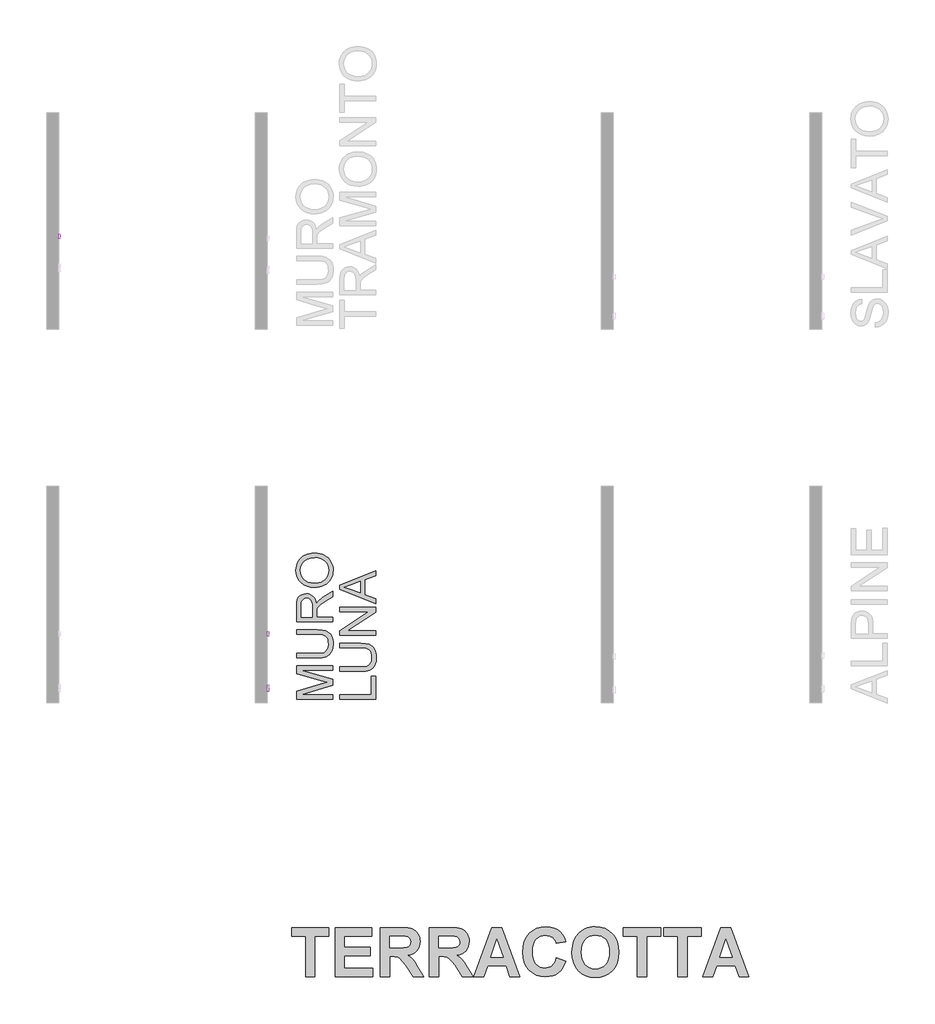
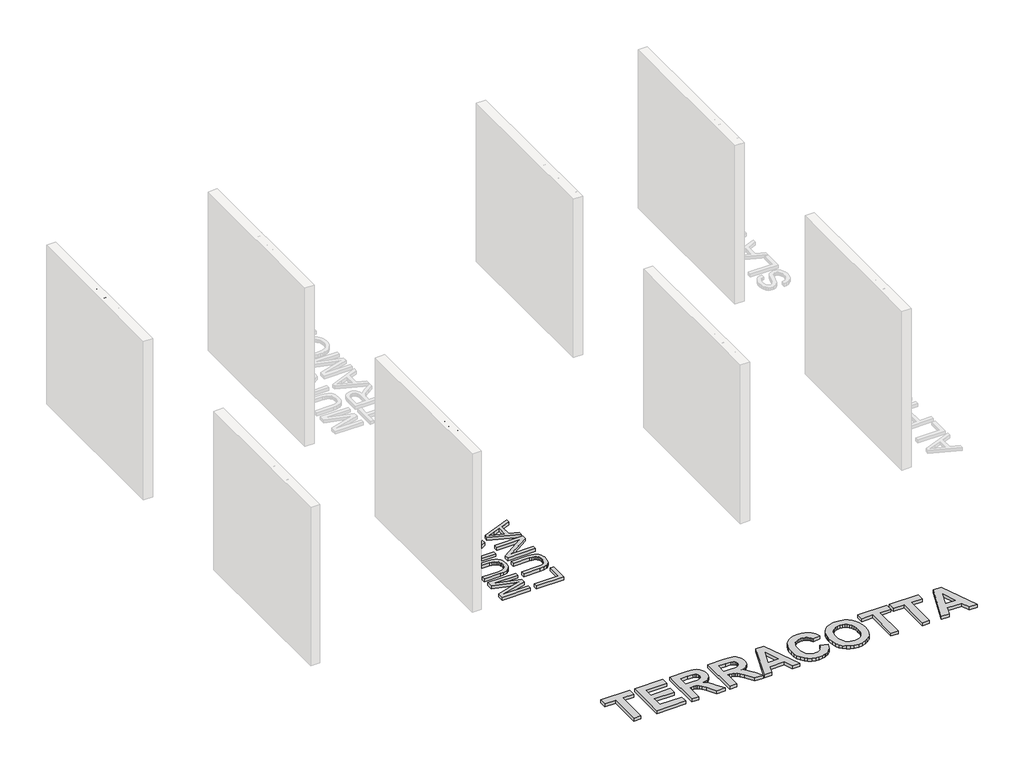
# One storey, part 3 of 11: 5 proxies.
"""IFC4 building model written with IfcOpenShell, lengths in millimetres."""

from ifc_helpers import new_model, si_unit, frame, origin, origin_with_axes, place, context, project, spatial, polyline, outline, extrude, element, save

model = new_model("IFC4")

# Units and contexts
model_context = context("Model", 3, world=origin())
ifc_project = project(units=[si_unit("LENGTHUNIT", "METRE", prefix="MILLI")], contexts=[model_context])

# Site, building, storey
site = spatial("IfcSite", under=ifc_project)
building = spatial("IfcBuilding", under=site)
storey = spatial("IfcBuildingStorey", under=building, Name="PORTOBELLO - SHOWROOM", Elevation=0.0)

# Proxies
placement = place(None, origin())
element("IfcBuildingElementProxy", 1, Name="10mm Arial", ObjectType="10mm Arial", at=placement, inside=storey, context=model_context, shape_type="SweptSolid", body=[
    extrude(outline(polyline([(-9338.2207048, 2553.7787854), (-9338.2207048, 2654.2350956), (-9316.613769, 2654.2350956), (-9296.0614282, 2583.4300742), (-9291.9166244, 2568.641218), (-9287.428464, 2584.6563475), (-9267.2194798, 2654.2350956), (-9245.6125439, 2654.2350956), (-9245.6125439, 2553.7787854), (-9258.1695827, 2553.7787854), (-9258.1695827, 2641.6780568), (-9283.4062875, 2553.7787854), (-9300.4269612, 2553.7787854), (-9325.6636661, 2641.6780568), (-9325.6636661, 2553.7787854), (-9338.2207048, 2553.7787854)])), frame((-30379.0012486, 0.0, 0.0), z_axis=(1.0, 0.0, 0.0), x_axis=(0.0, 1.0, 0.0)), (0.0, 0.0, 1.0), 20.0),
    extrude(outline(polyline([(-9178.1184605, 2553.7787854), (-9178.1184605, 2566.4584515), (-9187.9531725, 2555.7714796), (-9200.7799914, 2552.2091556), (-9212.5890035, 2554.7107531), (-9220.7314583, 2560.9892725), (-9224.4715919, 2570.2353733), (-9225.2073559, 2581.9094953), (-9225.2073559, 2627.5513882), (-9212.6503171, 2627.5513882), (-9212.6503171, 2587.8201327), (-9211.8900277, 2575.0178393), (-9206.9236207, 2567.5007838), (-9197.5671553, 2564.7661943), (-9187.0825185, 2567.5620975), (-9180.1540742, 2575.1772548), (-9178.1184605, 2589.1690334), (-9178.1184605, 2627.5513882), (-9165.5614218, 2627.5513882), (-9165.5614218, 2553.7787854), (-9178.1184605, 2553.7787854)])), frame((-30379.0012486, 0.0, 0.0), z_axis=(1.0, 0.0, 0.0), x_axis=(0.0, 1.0, 0.0)), (0.0, 0.0, 1.0), 20.0),
    extrude(outline(polyline([(-9148.2954934, 2553.7787854), (-9148.2954934, 2627.5513882), (-9137.3080845, 2627.5513882), (-9137.3080845, 2616.6375557), (-9129.5089862, 2626.6929969), (-9121.660837, 2629.121018), (-9109.0547473, 2625.2459943), (-9113.248602, 2613.9888053), (-9122.0777699, 2616.5639793), (-9129.1778924, 2614.0869072), (-9133.702841, 2607.2197766), (-9135.7384547, 2592.5535477), (-9135.7384547, 2553.7787854), (-9148.2954934, 2553.7787854)])), frame((-30379.0012486, 0.0, 0.0), z_axis=(1.0, 0.0, 0.0), x_axis=(0.0, 1.0, 0.0)), (0.0, 0.0, 1.0), 20.0),
    extrude(outline(polyline([(-9104.3458578, 2590.6650868), (-9101.6296624, 2608.4521813), (-9093.4810762, 2620.9540377), (-9083.4133722, 2627.079273), (-9071.3591055, 2629.121018), (-9058.1674703, 2626.6347489), (-9047.6307168, 2619.1759414), (-9040.7237324, 2607.3332069), (-9038.4214042, 2591.6951564), (-9042.4926316, 2569.3524565), (-9054.3506946, 2556.7095786), (-9071.3591055, 2552.2091556), (-9084.7101563, 2554.6862277), (-9095.234647, 2562.117444), (-9102.0680551, 2574.2084989), (-9104.3458578, 2590.6650868)]), holes=[polyline([(-9091.788819, 2590.6896123), (-9090.3356851, 2579.3251243), (-9085.9762835, 2571.2286547), (-9079.4157212, 2566.3818094), (-9071.3591055, 2564.7661943), (-9063.339278, 2566.3910065), (-9056.7909785, 2571.2654429), (-9052.4315769, 2579.4692114), (-9050.978443, 2591.0820197), (-9052.4407739, 2602.1154139), (-9056.8277667, 2610.1015189), (-9063.3852633, 2614.9483642), (-9071.3591055, 2616.5639793), (-9079.4157212, 2614.9544955), (-9085.9762835, 2610.1260443), (-9090.3356851, 2602.0479689), (-9091.788819, 2590.6896123)])]), frame((-30379.0012486, 0.0, 0.0), z_axis=(1.0, 0.0, 0.0), x_axis=(0.0, 1.0, 0.0)), (0.0, 0.0, 1.0), 20.0),
    extrude(outline(polyline([(-8983.4843596, 2553.7787854), (-8983.4843596, 2654.2350956), (-8970.9273208, 2654.2350956), (-8970.9273208, 2566.3358242), (-8920.6991658, 2566.3358242), (-8920.6991658, 2553.7787854), (-8983.4843596, 2553.7787854)])), frame((-30379.0012486, 0.0, 0.0), z_axis=(1.0, 0.0, 0.0), x_axis=(0.0, 1.0, 0.0)), (0.0, 0.0, 1.0), 20.0),
    extrude(outline(polyline([(-8861.0532316, 2553.7787854), (-8861.0532316, 2566.4584515), (-8870.8879436, 2555.7714796), (-8883.7147625, 2552.2091556), (-8895.5237746, 2554.7107531), (-8903.6662294, 2560.9892725), (-8907.406363, 2570.2353733), (-8908.142127, 2581.9094953), (-8908.142127, 2627.5513882), (-8895.5850882, 2627.5513882), (-8895.5850882, 2587.8201327), (-8894.8247988, 2575.0178393), (-8889.8583918, 2567.5007838), (-8880.5019264, 2564.7661943), (-8870.0172896, 2567.5620975), (-8863.0888453, 2575.1772548), (-8861.0532316, 2589.1690334), (-8861.0532316, 2627.5513882), (-8848.4961928, 2627.5513882), (-8848.4961928, 2553.7787854), (-8861.0532316, 2553.7787854)])), frame((-30379.0012486, 0.0, 0.0), z_axis=(1.0, 0.0, 0.0), x_axis=(0.0, 1.0, 0.0)), (0.0, 0.0, 1.0), 20.0),
    extrude(outline(polyline([(-8831.2302645, 2553.7787854), (-8831.2302645, 2627.5513882), (-8818.6732258, 2627.5513882), (-8818.6732258, 2617.2506923), (-8809.0715057, 2626.1534366), (-8795.9626439, 2629.121018), (-8784.104581, 2626.7297851), (-8776.0111771, 2620.4512657), (-8772.246518, 2611.2174276), (-8771.5843304, 2599.0773218), (-8771.5843304, 2553.7787854), (-8784.1413692, 2553.7787854), (-8784.1413692, 2597.3850646), (-8785.5883717, 2608.4951008), (-8790.7019314, 2614.36895), (-8799.3226328, 2616.5639793), (-8812.9465294, 2611.6343605), (-8817.2415517, 2604.4913184), (-8818.6732258, 2592.9214297), (-8818.6732258, 2553.7787854), (-8831.2302645, 2553.7787854)])), frame((-30379.0012486, 0.0, 0.0), z_axis=(1.0, 0.0, 0.0), x_axis=(0.0, 1.0, 0.0)), (0.0, 0.0, 1.0), 20.0),
    extrude(outline(polyline([(-8707.2295067, 2563.1965645), (-8719.4064007, 2554.6862277), (-8732.858619, 2552.2091556), (-8743.3524529, 2553.6990776), (-8751.0933033, 2558.1688439), (-8755.8665721, 2564.9562667), (-8757.4576618, 2573.3991585), (-8755.0541661, 2583.3319724), (-8748.7388585, 2590.5424595), (-8739.9464788, 2594.6627378), (-8729.0816972, 2596.5511987), (-8707.3030831, 2600.8676808), (-8707.2295067, 2603.663584), (-8710.6875975, 2612.9342102), (-8724.5690114, 2616.5639793), (-8737.273203, 2614.1482208), (-8743.3309932, 2605.5765703), (-8755.8880319, 2607.1462002), (-8750.4556411, 2619.4089334), (-8739.5172831, 2626.594895), (-8722.9503306, 2629.121018), (-8707.7322788, 2626.8892006), (-8699.1361028, 2621.2851315), (-8695.2856046, 2612.762532), (-8694.6724679, 2601.7751231), (-8694.6724679, 2586.152401), (-8694.0348058, 2564.3369987), (-8691.5332082, 2553.7787854), (-8704.090247, 2553.7787854), (-8707.2295067, 2563.1965645)]), holes=[polyline([(-8707.2295067, 2588.310642), (-8727.4875419, 2584.4601438), (-8738.2910098, 2582.4245301), (-8743.1838404, 2579.1135921), (-8744.900623, 2574.2820753), (-8741.1604894, 2567.4885211), (-8730.1853432, 2564.7661943), (-8717.4811516, 2567.770564), (-8709.2896459, 2575.0423647), (-8707.3030831, 2584.7544494), (-8707.2295067, 2588.310642)])]), frame((-30379.0012486, 0.0, 0.0), z_axis=(1.0, 0.0, 0.0), x_axis=(0.0, 1.0, 0.0)), (0.0, 0.0, 1.0), 20.0),
])
element("IfcBuildingElementProxy", 2, Name="10mm Arial Narrow", ObjectType="10mm Arial Narrow", at=placement, inside=storey, context=model_context, shape_type="SweptSolid", body=[
    extrude(outline(polyline([(-8646.0856457, 2553.7787854), (-8646.0856457, 2654.4973892), (-8614.788761, 2654.4973892), (-8598.4930595, 2652.6190684), (-8587.0200734, 2643.1386253), (-8582.730395, 2626.1195164), (-8584.5167034, 2614.0436909), (-8589.8756286, 2604.4172971), (-8599.6194174, 2598.1160387), (-8614.5603166, 2596.0156192), (-8636.338684, 2596.0156192), (-8636.338684, 2553.7787854), (-8646.0856457, 2553.7787854)]), holes=[polyline([(-8636.338684, 2607.3870745), (-8613.3673291, 2607.3870745), (-8597.5031337, 2611.9178887), (-8592.4773566, 2625.5864795), (-8594.9521711, 2635.7522559), (-8600.9297999, 2641.5522057), (-8613.5957735, 2643.1259339), (-8636.338684, 2643.1259339), (-8636.338684, 2607.3870745)])]), frame((-30379.0012486, 0.0, 0.0), z_axis=(1.0, 0.0, 0.0), x_axis=(0.0, 1.0, 0.0)), (0.0, 0.0, 1.0), 20.0),
    extrude(outline(polyline([(-8574.6079269, 2590.3298916), (-8572.653458, 2606.9206672), (-8566.7900514, 2618.872752), (-8557.9314847, 2626.0973066), (-8546.9915356, 2628.5054914), (-8536.1785, 2626.0973066), (-8527.2945506, 2618.872752), (-8521.3549958, 2607.1110375), (-8519.3751442, 2591.091373), (-8521.3200946, 2573.9294864), (-8527.1549456, 2561.7870313), (-8536.0039938, 2554.5624767), (-8546.9915356, 2552.1542918), (-8557.8521637, 2554.5688223), (-8566.7265946, 2561.812414), (-8572.6375938, 2573.7708445), (-8574.6079269, 2590.3298916)]), holes=[polyline([(-8564.8609653, 2590.3552743), (-8563.5569284, 2577.8035229), (-8559.6448178, 2568.9322649), (-8553.8036211, 2563.6590063), (-8546.7123257, 2561.9012535), (-8539.9922525, 2563.6748705), (-8534.3001792, 2568.9957216), (-8530.4166242, 2577.8828439), (-8529.1221059, 2590.3552743), (-8530.4261427, 2602.8689517), (-8534.3382533, 2611.7275184), (-8540.1794501, 2617.0007769), (-8547.2707454, 2618.7585298), (-8554.0384112, 2616.9912584), (-8559.7209659, 2611.6894443), (-8563.5759654, 2602.8213591), (-8564.8609653, 2590.3552743)])]), frame((-30379.0012486, 0.0, 0.0), z_axis=(1.0, 0.0, 0.0), x_axis=(0.0, 1.0, 0.0)), (0.0, 0.0, 1.0), 20.0),
    extrude(outline(polyline([(-8447.8974254, 2561.9012535), (-8446.2729318, 2552.1542918), (-8453.6339185, 2552.1542918), (-8461.9086828, 2554.2737483), (-8466.2237439, 2560.0736981), (-8467.3913487, 2574.7195233), (-8467.3913487, 2617.1340362), (-8475.5138168, 2617.1340362), (-8475.5138168, 2620.3830234), (-8477.1383104, 2615.5095426), (-8484.7023587, 2617.1340362), (-8490.7815184, 2614.811518), (-8494.6523821, 2608.3262349), (-8496.6322337, 2592.9189283), (-8496.6322337, 2553.7787854), (-8506.3791953, 2553.7787854), (-8506.3791953, 2626.8809978), (-8496.6322337, 2626.8809978), (-8496.6322337, 2617.1848016), (-8490.3880864, 2626.2718127), (-8483.9916428, 2628.5054914), (-8475.5138168, 2626.8809978), (-8467.3913487, 2626.8809978), (-8467.3913487, 2643.1259339), (-8457.6443871, 2651.2484019), (-8457.6443871, 2626.8809978), (-8447.8974254, 2626.8809978), (-8447.8974254, 2617.1340362), (-8457.6443871, 2617.1340362), (-8457.6443871, 2572.4858446), (-8456.7813748, 2564.4902901), (-8452.1617211, 2561.9012535), (-8447.8974254, 2561.9012535)])), frame((-30379.0012486, 0.0, 0.0), z_axis=(1.0, 0.0, 0.0), x_axis=(0.0, 1.0, 0.0)), (0.0, 0.0, 1.0), 20.0),
    extrude(outline(polyline([(-8441.399451, 2590.3298916), (-8439.4449821, 2606.9206672), (-8433.5815755, 2618.872752), (-8424.7230088, 2626.0973066), (-8413.7830596, 2628.5054914), (-8402.970024, 2626.0973066), (-8394.0860746, 2618.872752), (-8388.1465199, 2607.1110375), (-8386.1666683, 2591.091373), (-8388.1116186, 2573.9294864), (-8393.9464697, 2561.7870313), (-8402.7955179, 2554.5624767), (-8413.7830596, 2552.1542918), (-8424.6436878, 2554.5688223), (-8433.5181187, 2561.812414), (-8439.4291179, 2573.7708445), (-8441.399451, 2590.3298916)]), holes=[polyline([(-8431.6524893, 2590.3552743), (-8430.3484525, 2577.8035229), (-8426.4363419, 2568.9322649), (-8420.5951451, 2563.6590063), (-8413.5038498, 2561.9012535), (-8406.7837766, 2563.6748705), (-8401.0917033, 2568.9957216), (-8397.2081483, 2577.8828439), (-8395.9136299, 2590.3552743), (-8397.2176668, 2602.8689517), (-8401.1297774, 2611.7275184), (-8406.9709741, 2617.0007769), (-8414.0622695, 2618.7585298), (-8420.8299352, 2616.9912584), (-8426.51249, 2611.6894443), (-8430.3674895, 2602.8213591), (-8431.6524893, 2590.3552743)])]), frame((-30379.0012486, 0.0, 0.0), z_axis=(1.0, 0.0, 0.0), x_axis=(0.0, 1.0, 0.0)), (0.0, 0.0, 1.0), 20.0),
    extrude(outline(polyline([(-8363.4237578, 2553.7787854), (-8373.1707194, 2553.7787854), (-8373.1707194, 2654.4973892), (-8363.4237578, 2654.4973892), (-8363.4237578, 2619.088505), (-8356.024697, 2626.1702819), (-8346.8234637, 2628.5054914), (-8333.941737, 2624.3046525), (-8324.6643556, 2611.5752221), (-8321.1869239, 2590.8883113), (-8323.1191829, 2574.4339678), (-8328.9159599, 2562.2312287), (-8337.2890823, 2554.673526), (-8346.9503772, 2552.1542918), (-8356.2912155, 2554.7687112), (-8363.4237578, 2562.5358213), (-8363.4237578, 2553.7787854)]), holes=[polyline([(-8363.4237578, 2590.8883113), (-8361.3423753, 2573.6407581), (-8355.453586, 2564.9091049), (-8347.0011427, 2561.9012535), (-8341.0584151, 2563.6907347), (-8335.8200578, 2569.0591784), (-8330.9338856, 2590.4821879), (-8335.6423788, 2611.9178887), (-8340.8870818, 2617.0483695), (-8347.2042044, 2618.7585298), (-8353.1818332, 2616.9690485), (-8358.4741288, 2611.6006048), (-8363.4237578, 2590.8883113)])]), frame((-30379.0012486, 0.0, 0.0), z_axis=(1.0, 0.0, 0.0), x_axis=(0.0, 1.0, 0.0)), (0.0, 0.0, 1.0), 20.0),
    extrude(outline(polyline([(-8269.2031284, 2576.5216959), (-8259.4561668, 2574.8972023), (-8263.1556971, 2565.0106358), (-8268.974684, 2557.8907849), (-8276.6783373, 2553.5884151), (-8286.0318669, 2552.1542918), (-8297.6254209, 2554.5688223), (-8306.7695431, 2561.812414), (-8312.7090979, 2573.6185482), (-8314.6889495, 2589.7207065), (-8312.6995794, 2606.3876302), (-8306.7314691, 2618.5681594), (-8297.7174332, 2626.0211584), (-8286.5902866, 2628.5054914), (-8275.9073374, 2626.1068251), (-8267.1598201, 2618.910826), (-8261.324969, 2607.1713215), (-8259.3800186, 2591.1421384), (-8259.4561668, 2587.8931512), (-8304.9419878, 2587.8931512), (-8298.9389763, 2568.4499933), (-8293.0089401, 2563.5384384), (-8285.9049534, 2561.9012535), (-8275.7264856, 2565.5563641), (-8269.2031284, 2576.5216959)]), holes=[polyline([(-8304.2820373, 2597.6401129), (-8269.2031284, 2597.6401129), (-8273.4674242, 2611.9051974), (-8279.2927567, 2617.0451967), (-8286.5141385, 2618.7585298), (-8298.7232232, 2613.0474194), (-8304.2820373, 2597.6401129)])]), frame((-30379.0012486, 0.0, 0.0), z_axis=(1.0, 0.0, 0.0), x_axis=(0.0, 1.0, 0.0)), (0.0, 0.0, 1.0), 20.0),
    extrude(outline(polyline([(-30359.0012486, -8236.7132563), (-30359.0012486, -8246.4602179), (-30379.0012486, -8246.4602179), (-30379.0012486, -8236.7132563), (-30359.0012486, -8236.7132563)])), frame((0.0, 0.0, 2553.7787854), z_axis=(0.0, 0.0, 1.0), x_axis=(1.0, 0.0, 0.0)), (0.0, 0.0, 1.0), 100.7186038),
    extrude(outline(polyline([(-30359.0012486, -8210.7213585), (-30359.0012486, -8220.4683202), (-30379.0012486, -8220.4683202), (-30379.0012486, -8210.7213585), (-30359.0012486, -8210.7213585)])), frame((0.0, 0.0, 2553.7787854), z_axis=(0.0, 0.0, 1.0), x_axis=(1.0, 0.0, 0.0)), (0.0, 0.0, 1.0), 100.7186038),
    extrude(outline(polyline([(-8199.3499033, 2590.3298916), (-8197.3954344, 2606.9206672), (-8191.5320278, 2618.872752), (-8182.673461, 2626.0973066), (-8171.7335119, 2628.5054914), (-8160.9204763, 2626.0973066), (-8152.0365269, 2618.872752), (-8146.0969721, 2607.1110375), (-8144.1171205, 2591.091373), (-8146.0620709, 2573.9294864), (-8151.896922, 2561.7870313), (-8160.7459702, 2554.5624767), (-8171.7335119, 2552.1542918), (-8182.5941401, 2554.5688223), (-8191.468571, 2561.812414), (-8197.3795702, 2573.7708445), (-8199.3499033, 2590.3298916)]), holes=[polyline([(-8189.6029416, 2590.3552743), (-8188.2989047, 2577.8035229), (-8184.3867941, 2568.9322649), (-8178.5455974, 2563.6590063), (-8171.4543021, 2561.9012535), (-8164.7342289, 2563.6748705), (-8159.0421556, 2568.9957216), (-8155.1586005, 2577.8828439), (-8153.8640822, 2590.3552743), (-8155.1681191, 2602.8689517), (-8159.0802296, 2611.7275184), (-8164.9214264, 2617.0007769), (-8172.0127217, 2618.7585298), (-8178.7803875, 2616.9912584), (-8184.4629423, 2611.6894443), (-8188.3179418, 2602.8213591), (-8189.6029416, 2590.3552743)])]), frame((-30379.0012486, 0.0, 0.0), z_axis=(1.0, 0.0, 0.0), x_axis=(0.0, 1.0, 0.0)), (0.0, 0.0, 1.0), 20.0),
])
element("IfcBuildingElementProxy", 3, Name="10mm Arial Narrow", ObjectType="10mm Arial Narrow", at=placement, inside=storey, context=model_context, shape_type="SweptSolid", body=[
    extrude(outline(polyline([(-3686.4609429, 2563.9997397), (-3686.4609429, 2664.7183434), (-3655.1640583, 2664.7183434), (-3638.8683567, 2662.8400227), (-3627.3953706, 2653.3595795), (-3623.1056922, 2636.3404707), (-3624.8920006, 2624.2646452), (-3630.2509258, 2614.6382514), (-3639.9947146, 2608.336993), (-3654.9356138, 2606.2365735), (-3676.7139813, 2606.2365735), (-3676.7139813, 2563.9997397), (-3686.4609429, 2563.9997397)]), holes=[polyline([(-3676.7139813, 2617.6080288), (-3653.7426264, 2617.6080288), (-3637.878431, 2622.138843), (-3632.8526539, 2635.8074337), (-3635.3274683, 2645.9732101), (-3641.3050972, 2651.77316), (-3653.9710708, 2653.3468882), (-3676.7139813, 2653.3468882), (-3676.7139813, 2617.6080288)])]), frame((-32979.0012486, 0.0, 0.0), z_axis=(1.0, 0.0, 0.0), x_axis=(0.0, 1.0, 0.0)), (0.0, 0.0, 1.0), 20.0),
    extrude(outline(polyline([(-3614.9832242, 2600.5508459), (-3613.0287553, 2617.1416214), (-3607.1653487, 2629.0937062), (-3598.306782, 2636.3182608), (-3587.3668328, 2638.7264457), (-3576.5537972, 2636.3182608), (-3567.6698478, 2629.0937062), (-3561.730293, 2617.3319918), (-3559.7504415, 2601.3123273), (-3561.6953918, 2584.1504407), (-3567.5302429, 2572.0079855), (-3576.3792911, 2564.7834309), (-3587.3668328, 2562.3752461), (-3598.227461, 2564.7897766), (-3607.1018919, 2572.0333682), (-3613.0128911, 2583.9917987), (-3614.9832242, 2600.5508459)]), holes=[polyline([(-3605.2362625, 2600.5762286), (-3603.9322256, 2588.0244772), (-3600.0201151, 2579.1532191), (-3594.1789183, 2573.8799606), (-3587.087623, 2572.1222077), (-3580.3675498, 2573.8958248), (-3574.6754765, 2579.2166759), (-3570.7919214, 2588.1037982), (-3569.4974031, 2600.5762286), (-3570.80144, 2613.0899059), (-3574.7135506, 2621.9484726), (-3580.5547473, 2627.2217312), (-3587.6460426, 2628.979484), (-3594.4137084, 2627.2122127), (-3600.0962632, 2621.9103986), (-3603.9512627, 2613.0423133), (-3605.2362625, 2600.5762286)])]), frame((-32979.0012486, 0.0, 0.0), z_axis=(1.0, 0.0, 0.0), x_axis=(0.0, 1.0, 0.0)), (0.0, 0.0, 1.0), 20.0),
    extrude(outline(polyline([(-3488.2727227, 2572.1222077), (-3486.6482291, 2562.3752461), (-3494.0092157, 2562.3752461), (-3502.28398, 2564.4947026), (-3506.5990412, 2570.2946524), (-3507.766646, 2584.9404776), (-3507.766646, 2627.3549904), (-3515.889114, 2627.3549904), (-3515.889114, 2630.6039776), (-3517.5136076, 2625.7304968), (-3525.077656, 2627.3549904), (-3531.1568157, 2625.0324722), (-3535.0276793, 2618.5471891), (-3537.0075309, 2603.1398826), (-3537.0075309, 2563.9997397), (-3546.7544926, 2563.9997397), (-3546.7544926, 2637.1019521), (-3537.0075309, 2637.1019521), (-3537.0075309, 2627.4057559), (-3530.7633836, 2636.492767), (-3524.36694, 2638.7264457), (-3515.889114, 2637.1019521), (-3507.766646, 2637.1019521), (-3507.766646, 2653.3468882), (-3498.0196843, 2661.4693562), (-3498.0196843, 2637.1019521), (-3488.2727227, 2637.1019521), (-3488.2727227, 2627.3549904), (-3498.0196843, 2627.3549904), (-3498.0196843, 2582.7067989), (-3497.1566721, 2574.7112444), (-3492.5370184, 2572.1222077), (-3488.2727227, 2572.1222077)])), frame((-32979.0012486, 0.0, 0.0), z_axis=(1.0, 0.0, 0.0), x_axis=(0.0, 1.0, 0.0)), (0.0, 0.0, 1.0), 20.0),
    extrude(outline(polyline([(-3481.7747482, 2600.5508459), (-3479.8202794, 2617.1416214), (-3473.9568727, 2629.0937062), (-3465.098306, 2636.3182608), (-3454.1583569, 2638.7264457), (-3443.3453213, 2636.3182608), (-3434.4613719, 2629.0937062), (-3428.5218171, 2617.3319918), (-3426.5419655, 2601.3123273), (-3428.4869159, 2584.1504407), (-3434.3217669, 2572.0079855), (-3443.1708151, 2564.7834309), (-3454.1583569, 2562.3752461), (-3465.018985, 2564.7897766), (-3473.8934159, 2572.0333682), (-3479.8044152, 2583.9917987), (-3481.7747482, 2600.5508459)]), holes=[polyline([(-3472.0277866, 2600.5762286), (-3470.7237497, 2588.0244772), (-3466.8116391, 2579.1532191), (-3460.9704424, 2573.8799606), (-3453.879147, 2572.1222077), (-3447.1590739, 2573.8958248), (-3441.4670006, 2579.2166759), (-3437.5834455, 2588.1037982), (-3436.2889272, 2600.5762286), (-3437.592964, 2613.0899059), (-3441.5050746, 2621.9484726), (-3447.3462714, 2627.2217312), (-3454.4375667, 2628.979484), (-3461.2052325, 2627.2122127), (-3466.8877873, 2621.9103986), (-3470.7427867, 2613.0423133), (-3472.0277866, 2600.5762286)])]), frame((-32979.0012486, 0.0, 0.0), z_axis=(1.0, 0.0, 0.0), x_axis=(0.0, 1.0, 0.0)), (0.0, 0.0, 1.0), 20.0),
    extrude(outline(polyline([(-3403.799055, 2563.9997397), (-3413.5460166, 2563.9997397), (-3413.5460166, 2664.7183434), (-3403.799055, 2664.7183434), (-3403.799055, 2629.3094593), (-3396.3999943, 2636.3912361), (-3387.1987609, 2638.7264457), (-3374.3170343, 2634.5256067), (-3365.0396528, 2621.7961764), (-3361.5622212, 2601.1092656), (-3363.4944802, 2584.6549221), (-3369.2912572, 2572.452183), (-3377.6643795, 2564.8944803), (-3387.3256745, 2562.3752461), (-3396.6665127, 2564.9896655), (-3403.799055, 2572.7567755), (-3403.799055, 2563.9997397)]), holes=[polyline([(-3403.799055, 2601.1092656), (-3401.7176726, 2583.8617123), (-3395.8288832, 2575.1300592), (-3387.3764399, 2572.1222077), (-3381.4337123, 2573.911689), (-3376.195355, 2579.2801327), (-3371.3091828, 2600.7031422), (-3376.017676, 2622.138843), (-3381.262379, 2627.2693238), (-3387.5795016, 2628.979484), (-3393.5571304, 2627.1900028), (-3398.849426, 2621.8215591), (-3403.799055, 2601.1092656)])]), frame((-32979.0012486, 0.0, 0.0), z_axis=(1.0, 0.0, 0.0), x_axis=(0.0, 1.0, 0.0)), (0.0, 0.0, 1.0), 20.0),
    extrude(outline(polyline([(-3309.5784257, 2586.7426502), (-3299.831464, 2585.1181566), (-3303.5309944, 2575.23159), (-3309.3499813, 2568.1117391), (-3317.0536346, 2563.8093693), (-3326.4071642, 2562.3752461), (-3338.0007182, 2564.7897766), (-3347.1448404, 2572.0333682), (-3353.0843951, 2583.8395024), (-3355.0642467, 2599.9416608), (-3353.0748766, 2616.6085845), (-3347.1067663, 2628.7891137), (-3338.0927305, 2636.2421127), (-3326.9655838, 2638.7264457), (-3316.2826347, 2636.3277793), (-3307.5351173, 2629.1317803), (-3301.7002662, 2617.3922757), (-3299.7553159, 2601.3630927), (-3299.831464, 2598.1141055), (-3345.3172851, 2598.1141055), (-3339.3142735, 2578.6709476), (-3333.3842373, 2573.7593927), (-3326.2802506, 2572.1222077), (-3316.1017828, 2575.7773183), (-3309.5784257, 2586.7426502)]), holes=[polyline([(-3344.6573345, 2607.8610671), (-3309.5784257, 2607.8610671), (-3313.8427214, 2622.1261516), (-3319.668054, 2627.2661509), (-3326.8894357, 2628.979484), (-3339.0985205, 2623.2683737), (-3344.6573345, 2607.8610671)])]), frame((-32979.0012486, 0.0, 0.0), z_axis=(1.0, 0.0, 0.0), x_axis=(0.0, 1.0, 0.0)), (0.0, 0.0, 1.0), 20.0),
    extrude(outline(polyline([(-32959.0012486, -3277.0885535), (-32959.0012486, -3286.8355152), (-32979.0012486, -3286.8355152), (-32979.0012486, -3277.0885535), (-32959.0012486, -3277.0885535)])), frame((0.0, 0.0, 2563.9997397), z_axis=(0.0, 0.0, 1.0), x_axis=(1.0, 0.0, 0.0)), (0.0, 0.0, 1.0), 100.7186038),
    extrude(outline(polyline([(-32959.0012486, -3251.0966558), (-32959.0012486, -3260.8436174), (-32979.0012486, -3260.8436174), (-32979.0012486, -3251.0966558), (-32959.0012486, -3251.0966558)])), frame((0.0, 0.0, 2563.9997397), z_axis=(0.0, 0.0, 1.0), x_axis=(1.0, 0.0, 0.0)), (0.0, 0.0, 1.0), 100.7186038),
    extrude(outline(polyline([(-3239.7252005, 2600.5508459), (-3237.7707316, 2617.1416214), (-3231.907325, 2629.0937062), (-3223.0487583, 2636.3182608), (-3212.1088091, 2638.7264457), (-3201.2957736, 2636.3182608), (-3192.4118241, 2629.0937062), (-3186.4722694, 2617.3319918), (-3184.4924178, 2601.3123273), (-3186.4373681, 2584.1504407), (-3192.2722192, 2572.0079855), (-3201.1212674, 2564.7834309), (-3212.1088091, 2562.3752461), (-3222.9694373, 2564.7897766), (-3231.8438682, 2572.0333682), (-3237.7548674, 2583.9917987), (-3239.7252005, 2600.5508459)]), holes=[polyline([(-3229.9782388, 2600.5762286), (-3228.674202, 2588.0244772), (-3224.7620914, 2579.1532191), (-3218.9208946, 2573.8799606), (-3211.8295993, 2572.1222077), (-3205.1095261, 2573.8958248), (-3199.4174528, 2579.2166759), (-3195.5338978, 2588.1037982), (-3194.2393794, 2600.5762286), (-3195.5434163, 2613.0899059), (-3199.4555269, 2621.9484726), (-3205.2967236, 2627.2217312), (-3212.388019, 2628.979484), (-3219.1556847, 2627.2122127), (-3224.8382395, 2621.9103986), (-3228.693239, 2613.0423133), (-3229.9782388, 2600.5762286)])]), frame((-32979.0012486, 0.0, 0.0), z_axis=(1.0, 0.0, 0.0), x_axis=(0.0, 1.0, 0.0)), (0.0, 0.0, 1.0), 20.0),
])
element("IfcBuildingElementProxy", 4, Name="450mm Arial", ObjectType="450mm Arial", at=placement, inside=storey, context=model_context, shape_type="SweptSolid", body=[
    extrude(outline(polyline([(-29561.5974385, -9425.8455518), (-30011.2535813, -9425.8455518), (-30011.2535813, -9329.1299605), (-29694.3206505, -9237.1348805), (-29628.1237135, -9218.5821735), (-29699.8096171, -9198.4925558), (-30011.2535813, -9108.0343864), (-30011.2535813, -9011.3187951), (-29561.5974385, -9011.3187951), (-29561.5974385, -9067.525813), (-29955.0465634, -9067.525813), (-29561.5974385, -9180.4887453), (-29561.5974385, -9256.6756016), (-29955.0465634, -9369.6385339), (-29561.5974385, -9369.6385339), (-29561.5974385, -9425.8455518)])), origin_with_axes(), (0.0, 0.0, 1.0), 50.0),
    extrude(outline(polyline([(-30011.2535813, -8617.8696702), (-30011.2535813, -8561.6626523), (-29751.8450204, -8561.6626523), (-29691.0958827, -8565.4774841), (-29644.3161649, -8576.9219794), (-29625.3449242, -8586.0816924), (-29608.2262096, -8598.3015043), (-29592.9600213, -8613.581415), (-29579.5463592, -8631.9214246), (-29568.6198851, -8653.3421167), (-29560.8152607, -8677.864075), (-29556.1324861, -8705.4872993), (-29554.5715612, -8736.2117898), (-29560.0056382, -8793.2833199), (-29566.7982343, -8817.5273992), (-29576.3078689, -8838.9103546), (-29588.3938872, -8857.4356169), (-29602.9156344, -8873.1066165), (-29619.8731106, -8885.9233535), (-29639.2663157, -8895.8858278), (-29688.0220614, -8908.6888424), (-29751.8450204, -8912.9565139), (-30011.2535813, -8912.9565139), (-30011.2535813, -8856.749496), (-29753.8210483, -8856.749496), (-29703.3088333, -8853.9775679), (-29668.1382799, -8845.6617835), (-29643.7809907, -8830.5945703), (-29625.7085682, -8807.5683554), (-29614.5110764, -8777.5437082), (-29610.7785791, -8741.4811977), (-29612.6242441, -8710.5028425), (-29618.1612391, -8684.3136107), (-29627.3895642, -8662.9135022), (-29640.3092193, -8646.3025171), (-29658.4776987, -8633.8631466), (-29683.4524967, -8624.9778819), (-29715.2336132, -8619.6467231), (-29753.8210483, -8617.8696702), (-30011.2535813, -8617.8696702)])), origin_with_axes(), (0.0, 0.0, 1.0), 50.0),
    extrude(outline(polyline([(-29561.5974385, -8463.3003711), (-30011.2535813, -8463.3003711), (-30011.2535813, -8269.5398505), (-30008.2209272, -8217.4632801), (-29999.1229651, -8179.5756882), (-29982.3267274, -8151.8838518), (-29956.1992464, -8130.3945476), (-29923.8006211, -8116.603519), (-29888.1909504, -8112.0065095), (-29865.0961235, -8113.9104948), (-29843.89499, -8119.6224506), (-29824.5875501, -8129.1423771), (-29807.1738036, -8142.4702741), (-29792.2095084, -8159.7776718), (-29780.2504225, -8181.2361006), (-29771.2965457, -8206.8455603), (-29765.3478782, -8236.606051), (-29741.3062045, -8204.6602655), (-29683.4524967, -8159.1018428), (-29561.5974385, -8084.1225592), (-29561.5974385, -8149.4412616), (-29654.8000911, -8207.9536454), (-29716.4960756, -8250.2186882), (-29734.4861635, -8265.930855), (-29745.6424881, -8279.9139974), (-29756.345973, -8306.6452647), (-29758.3220009, -8339.2497262), (-29758.3220009, -8407.0933532), (-29561.5974385, -8407.0933532), (-29561.5974385, -8463.3003711)]), holes=[polyline([(-29814.5290188, -8407.0933532), (-29814.5290188, -8281.286239), (-29816.5187692, -8245.1551165), (-29822.4880204, -8217.1202196), (-29832.8347224, -8196.0151431), (-29847.9568253, -8180.6734815), (-29866.2488065, -8171.3285159), (-29886.1051431, -8168.2135274), (-29900.4793743, -8169.6989789), (-29913.5225312, -8174.1553337), (-29935.6156217, -8191.9807527), (-29944.1166587, -8205.5899592), (-29950.188828, -8222.6503535), (-29955.0465634, -8267.1247053), (-29955.0465634, -8407.0933532), (-29814.5290188, -8407.0933532)])]), origin_with_axes(), (0.0, 0.0, 1.0), 50.0),
    extrude(outline(polyline([(-29780.497426, -8034.72186), (-29833.2395337, -8030.9756403), (-29879.9300557, -8019.7369812), (-29920.5689921, -8001.0058827), (-29955.1563428, -7974.7823448), (-29982.7727059, -7942.6375842), (-30002.4986796, -7906.1428176), (-30014.3342638, -7865.298045), (-30018.2794585, -7820.1032664), (-30016.4269323, -7789.8521993), (-30010.8693536, -7761.1243204), (-30001.6067225, -7733.9196298), (-29988.6390389, -7708.2381273), (-29972.3573918, -7684.80024), (-29953.15287, -7664.3263947), (-29931.0254734, -7646.8165912), (-29905.9752021, -7632.2708298), (-29878.5715365, -7620.8400569), (-29849.3839566, -7612.6752191), (-29818.4124627, -7607.7763164), (-29785.6570546, -7606.1433488), (-29752.4693903, -7607.8620815), (-29721.0793627, -7613.0182795), (-29691.4869715, -7621.6119428), (-29663.692217, -7633.6430714), (-29638.4292483, -7648.8269253), (-29616.4322147, -7666.8787641), (-29597.7011162, -7687.798588), (-29582.2359528, -7711.586397), (-29570.1327815, -7737.305636), (-29561.4876591, -7764.0197503), (-29556.3005857, -7791.7287397), (-29554.5715612, -7820.4326044), (-29556.4824077, -7851.2119845), (-29562.2149472, -7880.3172299), (-29571.7691797, -7907.7483404), (-29585.1451051, -7933.5053161), (-29601.8247023, -7956.9157586), (-29621.2899501, -7977.3072695), (-29643.5408484, -7994.6798487), (-29668.5773972, -8009.0334963), (-29695.3944296, -8020.2721554), (-29722.9867785, -8028.299769), (-29751.354444, -8033.1163372), (-29780.497426, -8034.72186)]), holes=[polyline([(-29779.9485293, -7978.5148421), (-29742.6853074, -7975.7051773), (-29709.6074225, -7967.276183), (-29680.7148746, -7953.2278592), (-29656.0076638, -7933.5602058), (-29636.2199392, -7909.6523257), (-29622.0858503, -7882.8833217), (-29613.6053969, -7853.253194), (-29610.7785791, -7820.7619424), (-29613.6328417, -7787.7149329), (-29622.1956296, -7757.7348835), (-29636.4669427, -7730.8217943), (-29656.4467811, -7706.975665), (-29681.6754438, -7687.452097), (-29711.6932298, -7673.5066913), (-29746.5001392, -7665.1394478), (-29786.0961719, -7662.3503667), (-29835.853654, -7667.1257676), (-29878.8597072, -7681.4519704), (-29914.0302606, -7704.9584698), (-29940.2812433, -7737.2747606), (-29956.6246413, -7776.2601458), (-29962.0724407, -7819.7739284), (-29959.4480285, -7851.1365112), (-29951.5747921, -7880.2348954), (-29938.4527313, -7907.0690808), (-29920.0818463, -7931.6390674), (-29895.5770411, -7952.1472189), (-29864.0532198, -7966.7958984), (-29825.5103826, -7975.5851062), (-29779.9485293, -7978.5148421)])]), origin_with_axes(), (0.0, 0.0, 1.0), 50.0),
    extrude(outline(polyline([(-29021.1653553, -9425.8455518), (-29470.8214981, -9425.8455518), (-29470.8214981, -9369.6385339), (-29077.3723731, -9369.6385339), (-29077.3723731, -9144.8104625), (-29021.1653553, -9144.8104625), (-29021.1653553, -9425.8455518)])), origin_with_axes(), (0.0, 0.0, 1.0), 50.0),
    extrude(outline(polyline([(-29470.8214981, -8786.4907237), (-29470.8214981, -8730.2837059), (-29211.4129372, -8730.2837059), (-29150.6637995, -8734.0985377), (-29103.8840818, -8745.543033), (-29084.912841, -8754.702746), (-29067.7941264, -8766.9225578), (-29052.5279381, -8782.2024686), (-29039.114276, -8800.5424782), (-29028.1878019, -8821.9631703), (-29020.3831775, -8846.4851285), (-29015.7004029, -8874.1083529), (-29014.1394781, -8904.8328433), (-29019.573555, -8961.9043734), (-29026.3661511, -8986.1484527), (-29035.8757857, -9007.5314082), (-29047.961804, -9026.0566704), (-29062.4835513, -9041.72767), (-29079.4410274, -9054.544407), (-29098.8342325, -9064.5068814), (-29147.5899782, -9077.3098959), (-29211.4129372, -9081.5775674), (-29470.8214981, -9081.5775674), (-29470.8214981, -9025.3705496), (-29213.3889652, -9025.3705496), (-29162.8767501, -9022.5986215), (-29127.7061967, -9014.2828371), (-29103.3489075, -8999.2156238), (-29085.276485, -8976.189409), (-29074.0789932, -8946.1647617), (-29070.3464959, -8910.1022513), (-29072.1921609, -8879.1238961), (-29077.729156, -8852.9346643), (-29086.957481, -8831.5345558), (-29099.8771361, -8814.9235706), (-29118.0456155, -8802.4842001), (-29143.0204135, -8793.5989355), (-29174.8015301, -8788.2677767), (-29213.3889652, -8786.4907237), (-29470.8214981, -8786.4907237)])), origin_with_axes(), (0.0, 0.0, 1.0), 50.0),
    extrude(outline(polyline([(-29021.1653553, -8631.9214246), (-29470.8214981, -8631.9214246), (-29470.8214981, -8571.7623508), (-29114.5875666, -8336.8345809), (-29470.8214981, -8336.8345809), (-29470.8214981, -8280.6275631), (-29021.1653553, -8280.6275631), (-29021.1653553, -8340.7866369), (-29377.5090661, -8575.7144068), (-29021.1653553, -8575.7144068), (-29021.1653553, -8631.9214246)])), origin_with_axes(), (0.0, 0.0, 1.0), 50.0),
    extrude(outline(polyline([(-29021.1653553, -8234.6300231), (-29470.8214981, -8055.1408157), (-29470.8214981, -8007.277027), (-29021.1653553, -7827.7878196), (-29021.1653553, -7887.1784381), (-29161.6828999, -7938.6649447), (-29161.6828999, -8123.8626773), (-29021.1653553, -8175.2394046), (-29021.1653553, -8234.6300231)]), holes=[polyline([(-29217.8899178, -8103.224163), (-29217.8899178, -7959.1936797), (-29328.4377048, -7999.7022531), (-29414.6144803, -8031.2089213), (-29338.098286, -8059.2026509), (-29217.8899178, -8103.224163)])]), origin_with_axes(), (0.0, 0.0, 1.0), 50.0),
])
element("IfcBuildingElementProxy", 5, Name="600mm Arial", ObjectType="600mm Arial", at=placement, inside=storey, context=model_context, shape_type="SweptSolid", body=[
    extrude(outline(polyline([(-29898.8868331, -12888.7002712), (-29898.8868331, -12383.4289493), (-30073.7884445, -12383.4289493), (-30073.7884445, -12276.5446312), (-29607.3841474, -12276.5446312), (-29607.3841474, -12383.4289493), (-29782.2857588, -12383.4289493), (-29782.2857588, -12888.7002712), (-29898.8868331, -12888.7002712)])), origin_with_axes(), (0.0, 0.0, 1.0), 50.0),
    extrude(outline(polyline([(-29529.6500979, -12888.7002712), (-29529.6500979, -12276.5446312), (-29072.9625569, -12276.5446312), (-29072.9625569, -12383.4289493), (-29413.0490236, -12383.4289493), (-29413.0490236, -12519.463536), (-29092.3960693, -12519.463536), (-29092.3960693, -12626.3478541), (-29413.0490236, -12626.3478541), (-29413.0490236, -12781.8159531), (-29063.2458007, -12781.8159531), (-29063.2458007, -12888.7002712), (-29529.6500979, -12888.7002712)])), origin_with_axes(), (0.0, 0.0, 1.0), 50.0),
    extrude(outline(polyline([(-28966.0782388, -12888.7002712), (-28966.0782388, -12276.5446312), (-28708.5841998, -12276.5446312), (-28624.7012655, -12280.6818438), (-28592.7232691, -12285.8533596), (-28567.3875864, -12293.0934816), (-28546.473787, -12302.9810401), (-28527.7614401, -12316.0948654), (-28511.2505458, -12332.4349573), (-28496.941104, -12352.001316), (-28485.383478, -12373.9494186), (-28477.1280309, -12397.4347424), (-28472.1747626, -12422.4572874), (-28470.5236732, -12449.0170536), (-28472.9101616, -12482.1242434), (-28480.069627, -12512.2139249), (-28492.0020693, -12539.2860982), (-28508.7074885, -12563.3407631), (-28530.1669066, -12583.7990896), (-28556.3613455, -12600.0822475), (-28587.2908053, -12612.1902366), (-28622.9552859, -12620.1230571), (-28589.1364196, -12644.4908598), (-28561.7700868, -12671.1360271), (-28533.4548519, -12709.7373593), (-28496.7892797, -12769.9736565), (-28421.9398922, -12888.7002712), (-28558.1263032, -12888.7002712), (-28646.7917034, -12748.8700766), (-28689.6251384, -12695.1812031), (-28716.4031521, -12665.8980882), (-28735.7227962, -12651.4937563), (-28756.1811227, -12642.4412315), (-28783.3386971, -12637.6587656), (-28822.756085, -12636.0646102), (-28849.4771646, -12636.0646102), (-28849.4771646, -12888.7002712), (-28966.0782388, -12888.7002712)]), holes=[polyline([(-28849.4771646, -12529.1802922), (-28753.3723729, -12529.1802922), (-28677.5171493, -12527.4153345), (-28636.6953864, -12522.1204615), (-28615.9334113, -12512.5175735), (-28600.2575507, -12497.828571), (-28590.4079483, -12478.4519928), (-28587.1247474, -12454.7863776), (-28591.4517404, -12428.5777051), (-28604.4327194, -12407.9485763), (-28625.3085628, -12393.39242), (-28653.320149, -12385.4026654), (-28748.0585218, -12383.4289493), (-28849.4771646, -12383.4289493), (-28849.4771646, -12529.1802922)])]), origin_with_axes(), (0.0, 0.0, 1.0), 50.0),
    extrude(outline(polyline([(-28353.9225989, -12888.7002712), (-28353.9225989, -12276.5446312), (-28096.4285598, -12276.5446312), (-28012.5456255, -12280.6818438), (-27980.5676291, -12285.8533596), (-27955.2319464, -12293.0934816), (-27934.318147, -12302.9810401), (-27915.6058001, -12316.0948654), (-27899.0949058, -12332.4349573), (-27884.7854641, -12352.001316), (-27873.2278381, -12373.9494186), (-27864.9723909, -12397.4347424), (-27860.0191226, -12422.4572874), (-27858.3680332, -12449.0170536), (-27860.7545216, -12482.1242434), (-27867.913987, -12512.2139249), (-27879.8464293, -12539.2860982), (-27896.5518485, -12563.3407631), (-27918.0112666, -12583.7990896), (-27944.2057055, -12600.0822475), (-27975.1351653, -12612.1902366), (-28010.7996459, -12620.1230571), (-27976.9807796, -12644.4908598), (-27949.6144468, -12671.1360271), (-27921.2992119, -12709.7373593), (-27884.6336398, -12769.9736565), (-27809.7842522, -12888.7002712), (-27945.9706632, -12888.7002712), (-28034.6360634, -12748.8700766), (-28077.4694984, -12695.1812031), (-28104.2475121, -12665.8980882), (-28123.5671562, -12651.4937563), (-28144.0254827, -12642.4412315), (-28171.1830572, -12637.6587656), (-28210.6004451, -12636.0646102), (-28237.3215246, -12636.0646102), (-28237.3215246, -12888.7002712), (-28353.9225989, -12888.7002712)]), holes=[polyline([(-28237.3215246, -12529.1802922), (-28141.2167329, -12529.1802922), (-28065.3615093, -12527.4153345), (-28024.5397465, -12522.1204615), (-28003.7777713, -12512.5175735), (-27988.1019107, -12497.828571), (-27978.2523083, -12478.4519928), (-27974.9691075, -12454.7863776), (-27979.2961005, -12428.5777051), (-27992.2770794, -12407.9485763), (-28013.1529228, -12393.39242), (-28041.164509, -12385.4026654), (-28135.9028819, -12383.4289493), (-28237.3215246, -12383.4289493), (-28237.3215246, -12529.1802922)])]), origin_with_axes(), (0.0, 0.0, 1.0), 50.0),
    extrude(outline(polyline([(-27226.7788808, -12888.7002712), (-27349.3011034, -12888.7002712), (-27397.2775871, -12752.6656845), (-27628.5060196, -12752.6656845), (-27675.875206, -12888.7002712), (-27800.067496, -12888.7002712), (-27576.5821037, -12276.5446312), (-27452.3898136, -12276.5446312), (-27226.7788808, -12888.7002712)]), holes=[polyline([(-27434.6263687, -12645.7813664), (-27513.4231884, -12422.2959741), (-27591.157238, -12645.7813664), (-27434.6263687, -12645.7813664)])]), origin_with_axes(), (0.0, 0.0, 1.0), 50.0),
    extrude(outline(polyline([(-26770.0913399, -12655.4981226), (-26653.4902656, -12694.3651474), (-26669.5931321, -12740.4675497), (-26690.269706, -12780.2407758), (-26715.5199875, -12813.6848258), (-26745.3439765, -12840.7996997), (-26779.6183157, -12861.7561997), (-26818.2196479, -12876.7251283), (-26861.1479731, -12885.7064855), (-26908.4032913, -12888.7002712), (-26966.7892296, -12883.5856896), (-27019.7284706, -12868.2419447), (-27067.2210143, -12842.6690365), (-27109.2668607, -12806.8669652), (-27143.6740461, -12762.1926603), (-27168.2506072, -12710.0030519), (-27182.9965439, -12650.2981398), (-27187.9118561, -12583.0779242), (-27182.9538433, -12512.1949469), (-27168.0798049, -12449.700263), (-27143.2897408, -12395.5938726), (-27127.1761992, -12371.6862874), (-27108.5836512, -12349.8757756), (-27065.7929168, -12313.5423191), (-27016.7489184, -12287.5898502), (-26961.451656, -12272.0183688), (-26899.9011296, -12266.827875), (-26846.0794098, -12271.1074229), (-26797.571541, -12283.9460666), (-26754.3775232, -12305.3438061), (-26716.4973565, -12335.3006413), (-26696.7886626, -12357.7042169), (-26679.7179161, -12384.5296756), (-26665.2851171, -12415.7770175), (-26653.4902656, -12451.4462426), (-26770.0913399, -12470.879755), (-26777.4405857, -12449.5247161), (-26787.949675, -12430.5514212), (-26801.6186079, -12413.9598702), (-26818.4473844, -12399.7500632), (-26837.8476852, -12388.3584951), (-26859.2311911, -12380.2216606), (-26882.5979022, -12375.33956), (-26907.9478183, -12373.7121931), (-26942.5969738, -12376.6680228), (-26973.8205932, -12385.5355117), (-27001.6186765, -12400.3146599), (-27025.9912236, -12421.0054674), (-27045.8185303, -12448.3101216), (-27059.9808922, -12482.9308101), (-27068.4783094, -12524.8675327), (-27071.3107818, -12574.1202895), (-27068.5637106, -12626.2529639), (-27060.322497, -12670.3009934), (-27046.5871409, -12706.2643781), (-27027.3576425, -12734.143118), (-27003.7252389, -12754.9999834), (-26976.7811674, -12769.8977443), (-26946.525428, -12778.8364009), (-26912.9580207, -12781.8159531), (-26887.9686873, -12779.9134046), (-26864.7727786, -12774.2057593), (-26843.3702947, -12764.693017), (-26823.7612354, -12751.3751778), (-26806.3726068, -12733.9675712), (-26791.6314146, -12712.1855264), (-26779.537659, -12686.0290436), (-26770.0913399, -12655.4981226)])), origin_with_axes(), (0.0, 0.0, 1.0), 50.0),
    extrude(outline(polyline([(-26575.7562161, -12586.4180591), (-26574.0387035, -12541.610908), (-26568.8861658, -12500.5614087), (-26560.298603, -12463.2695612), (-26548.276015, -12429.7353655), (-26524.0410586, -12385.4975556), (-26492.3287547, -12346.0042555), (-26455.1887316, -12313.6846544), (-26414.6706174, -12290.9679412), (-26385.5013708, -12280.4066622), (-26354.1686277, -12272.8628916), (-26320.6723881, -12268.3366292), (-26285.012652, -12266.827875), (-26221.9106708, -12272.0610694), (-26165.4510035, -12287.7606525), (-26115.63365, -12313.9266244), (-26072.4586103, -12350.558985), (-26053.7771027, -12372.5130183), (-26037.5864628, -12396.509563), (-26012.6777861, -12450.6301869), (-25997.73258, -12512.9208569), (-25992.7508447, -12583.3815728), (-25997.694624, -12653.3630932), (-26012.5259618, -12715.2789468), (-26037.2448581, -12769.1291337), (-26053.3121408, -12793.0296022), (-26071.851313, -12814.9136539), (-26114.7416822, -12851.4463798), (-26164.3123212, -12877.541184), (-26220.56323, -12893.1980665), (-26283.4944088, -12898.4170274), (-26347.089819, -12893.2217891), (-26403.8151788, -12877.6360742), (-26453.6704884, -12851.6598827), (-26496.6557477, -12815.2932147), (-26531.2622026, -12769.8170877), (-26555.981099, -12716.5125194), (-26570.8124368, -12655.3795099), (-26575.7562161, -12586.4180591)]), holes=[polyline([(-26459.1551418, -12582.1669783), (-26456.0569769, -12630.5894459), (-26446.7624821, -12672.7681385), (-26431.2716574, -12708.7030562), (-26409.5845028, -12738.3941989), (-26383.1243713, -12761.6422972), (-26353.3146159, -12778.2480817), (-26320.1552365, -12788.2115524), (-26283.6462331, -12791.5327093), (-26247.1751858, -12788.2352749), (-26214.1296747, -12778.3429719), (-26184.5096996, -12761.8558001), (-26158.3152607, -12738.7737597), (-26136.8937987, -12709.0968505), (-26121.5927544, -12672.8250726), (-26112.4121278, -12629.9584261), (-26109.351919, -12580.4969108), (-26112.3314712, -12531.7233494), (-26121.2701277, -12489.5541458), (-26136.1678887, -12453.9892999), (-26157.024754, -12425.0288117), (-26182.8159096, -12402.5777911), (-26212.5165413, -12386.5413478), (-26246.1266492, -12376.9194818), (-26283.6462331, -12373.7121931), (-26321.2037732, -12376.9574379), (-26354.9277492, -12386.6931721), (-26384.8181613, -12402.9193958), (-26410.8750095, -12425.636109), (-26431.9975674, -12454.8907568), (-26447.0851087, -12490.7307843), (-26456.1376335, -12533.1561914), (-26459.1551418, -12582.1669783)])]), origin_with_axes(), (0.0, 0.0, 1.0), 50.0),
    extrude(outline(polyline([(-25759.5486961, -12888.7002712), (-25759.5486961, -12383.4289493), (-25934.4503075, -12383.4289493), (-25934.4503075, -12276.5446312), (-25468.0460104, -12276.5446312), (-25468.0460104, -12383.4289493), (-25642.9476218, -12383.4289493), (-25642.9476218, -12888.7002712), (-25759.5486961, -12888.7002712)])), origin_with_axes(), (0.0, 0.0, 1.0), 50.0),
    extrude(outline(polyline([(-25254.2773742, -12888.7002712), (-25254.2773742, -12383.4289493), (-25429.1789857, -12383.4289493), (-25429.1789857, -12276.5446312), (-24962.7746885, -12276.5446312), (-24962.7746885, -12383.4289493), (-25137.6763, -12383.4289493), (-25137.6763, -12888.7002712), (-25254.2773742, -12888.7002712)])), origin_with_axes(), (0.0, 0.0, 1.0), 50.0),
    extrude(outline(polyline([(-24370.0525609, -12888.7002712), (-24492.5747835, -12888.7002712), (-24540.5512672, -12752.6656845), (-24771.7796997, -12752.6656845), (-24819.1488861, -12888.7002712), (-24943.3411762, -12888.7002712), (-24719.8557838, -12276.5446312), (-24595.6634937, -12276.5446312), (-24370.0525609, -12888.7002712)]), holes=[polyline([(-24577.9000488, -12645.7813664), (-24656.6968686, -12422.2959741), (-24734.4309181, -12645.7813664), (-24577.9000488, -12645.7813664)])]), origin_with_axes(), (0.0, 0.0, 1.0), 50.0),
])

save(model, "model.ifc")
